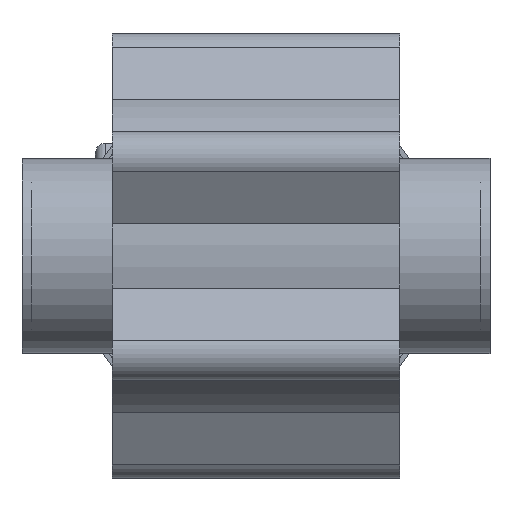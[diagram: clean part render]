
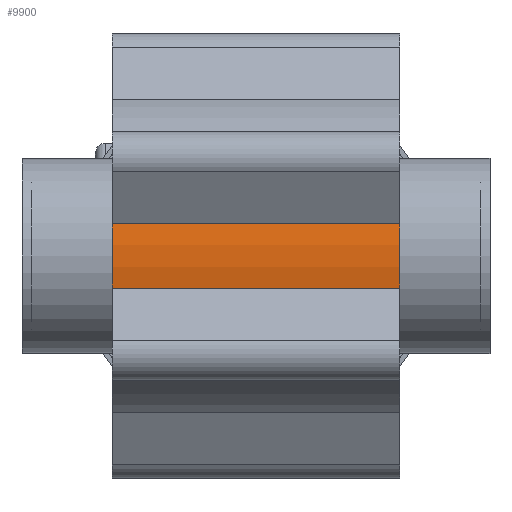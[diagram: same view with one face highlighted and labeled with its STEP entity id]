
A CAD part, front view. The second image highlights one B-rep face of the part: STEP entity #9900.
In plain terms, the highlighted cylindrical face has radius 86 mm (diameter 172 mm), a partial arc.
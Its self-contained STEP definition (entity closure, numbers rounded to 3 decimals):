
#100=CARTESIAN_POINT('',(84.375,14.,16.641));
#110=VERTEX_POINT('',#100);
#160=CARTESIAN_POINT('',(84.375,14.,16.641));
#170=DIRECTION('',(0.,-1.,0.));
#180=VECTOR('',#170,1.);
#190=LINE('',#160,#180);
#200=CARTESIAN_POINT('',(84.375,-135.5,
16.641));
#210=VERTEX_POINT('',#200);
#220=EDGE_CURVE('',#110,#210,#190,.T.);
#7440=CARTESIAN_POINT('',(0.,-135.5,0.));
#7450=DIRECTION('',(0.,-1.,0.));
#7460=DIRECTION('',(0.,0.,-1.));
#7470=AXIS2_PLACEMENT_3D('',#7440,#7450,#7460);
#7480=CIRCLE('',#7470,86.);
#7490=CARTESIAN_POINT('',(84.375,-135.5,
-16.641));
#7500=VERTEX_POINT('',#7490);
#7510=EDGE_CURVE('',#7500,#210,#7480,.T.);
#9660=CARTESIAN_POINT('',(0.,14.,0.));
#9670=DIRECTION('',(0.,-1.,0.));
#9680=DIRECTION('',(0.,0.,-1.));
#9690=AXIS2_PLACEMENT_3D('',#9660,#9670,#9680);
#9700=CYLINDRICAL_SURFACE('',#9690,86.);
#9710=ORIENTED_EDGE('',*,*,#7510,.F.);
#9720=ORIENTED_EDGE('',*,*,#220,.T.);
#9730=CARTESIAN_POINT('',(0.,14.,0.));
#9740=DIRECTION('',(0.,-1.,0.));
#9750=DIRECTION('',(0.,0.,-1.));
#9760=AXIS2_PLACEMENT_3D('',#9730,#9740,#9750);
#9770=CIRCLE('',#9760,86.);
#9780=CARTESIAN_POINT('',(84.375,14.,-16.641));
#9790=VERTEX_POINT('',#9780);
#9800=EDGE_CURVE('',#9790,#110,#9770,.T.);
#9810=ORIENTED_EDGE('',*,*,#9800,.T.);
#9820=CARTESIAN_POINT('',(84.375,-135.5,-16.641));
#9830=DIRECTION('',(0.,1.,0.));
#9840=VECTOR('',#9830,1.);
#9850=LINE('',#9820,#9840);
#9860=EDGE_CURVE('',#7500,#9790,#9850,.T.);
#9870=ORIENTED_EDGE('',*,*,#9860,.T.);
#9880=EDGE_LOOP('',(#9870,#9810,#9720,#9710));
#9890=FACE_OUTER_BOUND('',#9880,.T.);
#9900=ADVANCED_FACE('',(#9890),#9700,.T.);
